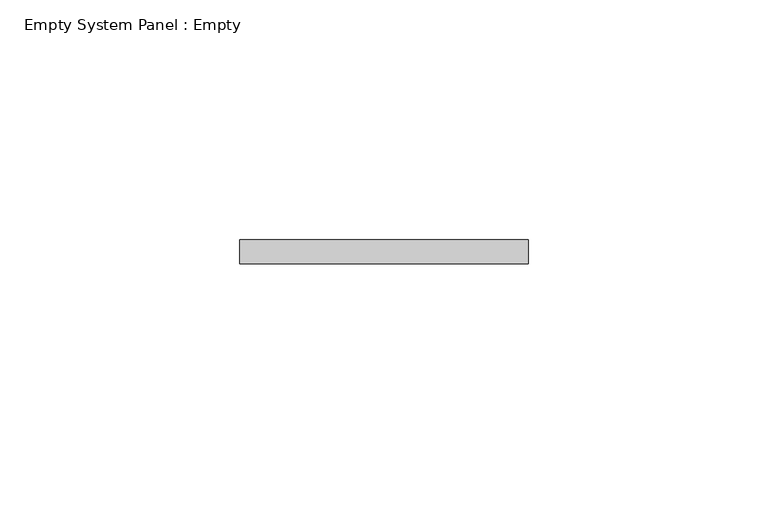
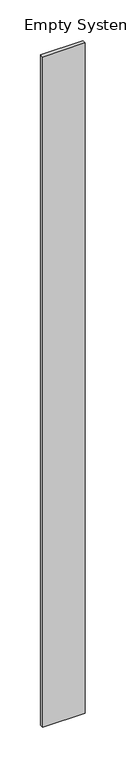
"""IFC4 building model written with IfcOpenShell, lengths in millimetres: plate geometry, Empty System Panel : Empty."""

from ifc_helpers import new_model, si_unit, origin, origin_with_axes, place, context, project, spatial, polyline, outline, extrude, source, transform, mapped, element, save


def empty_system_panel_empty_c6af10a3(model_context):
    return source(origin(), model_context, "Body", "SweptSolid", [
        extrude(outline(polyline([(30.0000002, 97.5), (-30.0000002, 97.5), (-30.0000002, 102.5), (30.0000002, 102.5), (30.0000002, 97.5)])), origin_with_axes(), (0.0, 0.0, 1.0), 1000.0),
    ])


if __name__ == "__main__":
    model = new_model("IFC4")
    model_context = context("Model", 3, world=origin())
    ifc_project = project(units=[si_unit("LENGTHUNIT", "METRE", prefix="MILLI")], contexts=[model_context])
    site = spatial("IfcSite", under=ifc_project)
    building = spatial("IfcBuilding", under=site)
    placement = place(None, origin())
    empty_system_panel_empty_shape = empty_system_panel_empty_c6af10a3(model_context)
    element("IfcPlate", 1, ObjectType="Empty System Panel : Empty", at=placement, inside=building, context=model_context, shape_type="MappedRepresentation", body=[
        mapped(empty_system_panel_empty_shape, transform((0.0, 0.0, 0.0), x_axis=(1.0, 0.0, 0.0), y_axis=(0.0, 1.0, 0.0), z_axis=(0.0, 0.0, 1.0))),
    ])
    save(model, "model.ifc")
